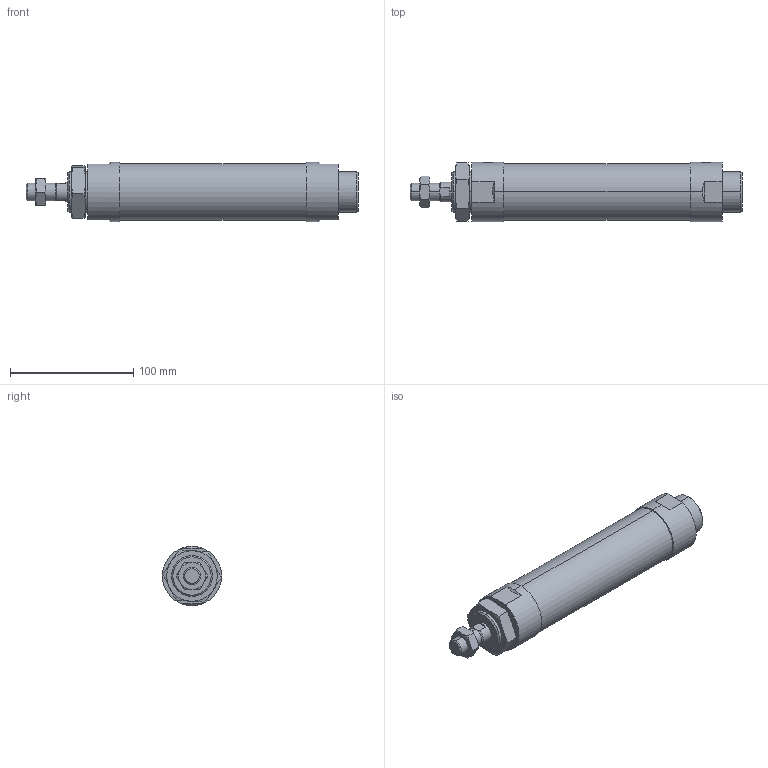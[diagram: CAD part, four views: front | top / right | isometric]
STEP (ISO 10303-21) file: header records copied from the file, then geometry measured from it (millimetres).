
FILE_DESCRIPTION (( 'STEP AP203' ), '1' );
FILE_NAME ('J#2-40-100-N.STEP', '2016-03-08T07:58:38', ( '' ), ( '' ), 'SwSTEP 2.0', 'SolidWorks 2014', '' );
FILE_SCHEMA (( 'CONFIG_CONTROL_DESIGN' ));
Length unit declared in the file: millimetre
Products named in the file (4): J#2-40-100-N; J#2-40-100
Assembly tree (3 placements, depth 2):
  J#2-40-100-N
    J#2-40-100
    (unnamed)
    (unnamed)
Bounding box: 269 x 48 x 48 mm (x, y, z)
Volume: 384009.4 mm3; surface area: 44887.5 mm2
Topology: 3 solids, 3 shells, 94 faces, 210 edges, 125 vertices
Faces by surface type: plane 33, torus 24, cylinder 22, cone 15
Entity records: 3435 total; most frequent: CARTESIAN_POINT 1022, DIRECTION 421, ORIENTED_EDGE 412, EDGE_CURVE 206, AXIS2_PLACEMENT_3D 178, VERTEX_POINT 125, EDGE_LOOP 105, FACE_OUTER_BOUND 94
